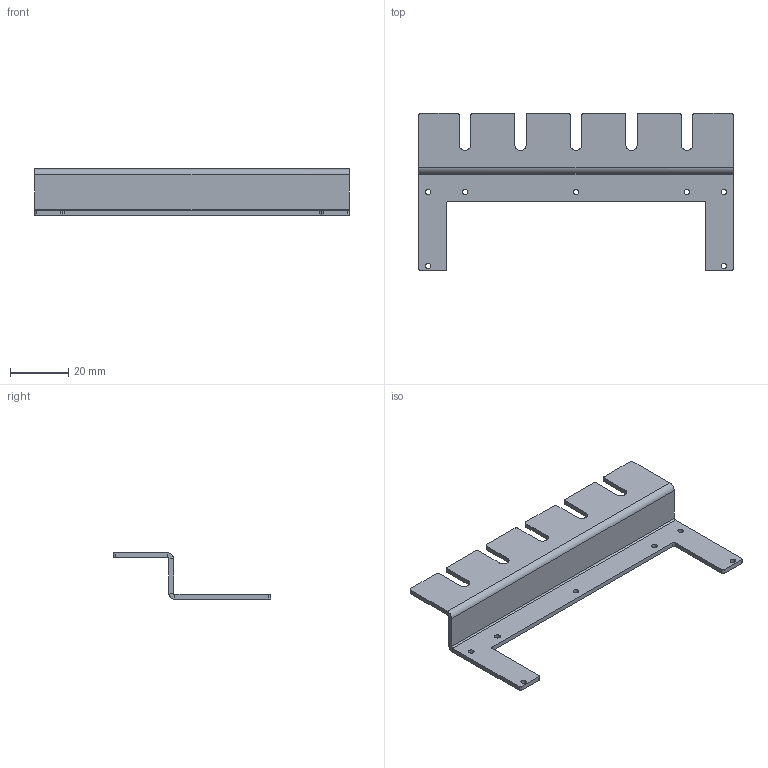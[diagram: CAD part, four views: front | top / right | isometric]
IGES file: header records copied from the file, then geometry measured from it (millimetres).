
Global section: file name: end_stiffener; native system: unknown; preprocessor: unknown; author: unknown; organization: unknown; date: 20250118.163309; units: inch
Bounding box: 107.95 x 53.98 x 15.88 mm (x, y, z)
Volume: 7726.3 mm3; surface area: 10613.3 mm2
Topology: 1 solids, 1 shells, 71 faces, 193 edges, 124 vertices
Faces by surface type: bspline 71
